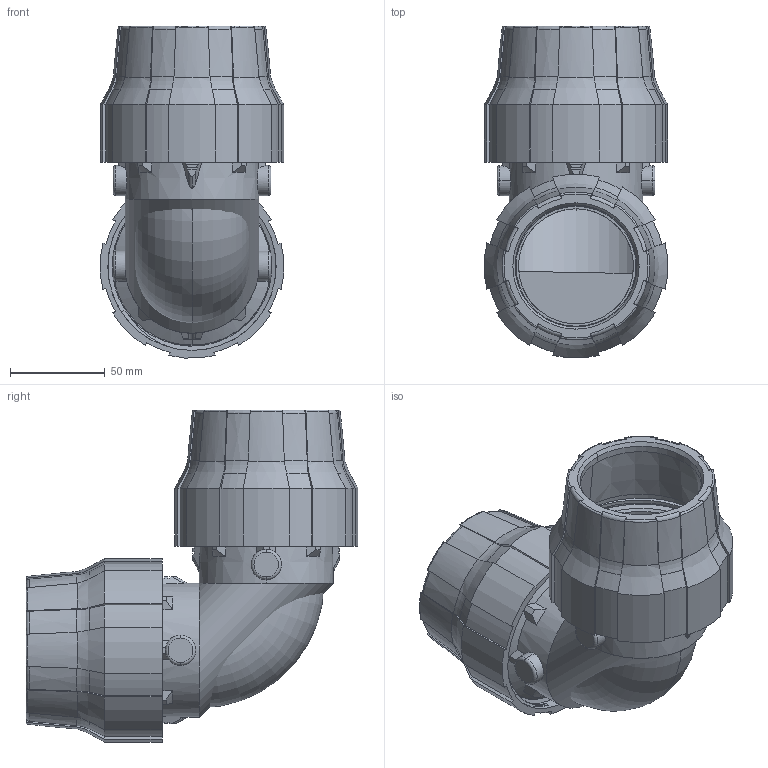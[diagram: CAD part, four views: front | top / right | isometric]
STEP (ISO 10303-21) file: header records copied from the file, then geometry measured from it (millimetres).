
FILE_DESCRIPTION (( 'STEP AP203' ), '1' );
FILE_NAME ('QLGO90AL063.STEP', '2014-05-14T13:29:51', ( '' ), ( '' ), 'SwSTEP 2.0', 'SolidWorks 2013', '' );
FILE_SCHEMA (( 'CONFIG_CONTROL_DESIGN' ));
Length unit declared in the file: millimetre
Products named in the file (3): CCORGO90063AL; CGHQUICK063AL; QLGO90AL063
Assembly tree (3 placements, depth 2):
  QLGO90AL063
    CCORGO90063AL
    CGHQUICK063AL  x2
Bounding box: 97.01 x 175.56 x 175.56 mm (x, y, z)
Volume: 342114.4 mm3; surface area: 176766.5 mm2
Topology: 3 solids, 3 shells, 619 faces, 1696 edges, 1092 vertices
Faces by surface type: plane 179, cylinder 161, bspline 158, cone 62, torus 59
Entity records: 22174 total; most frequent: CARTESIAN_POINT 11736, ORIENTED_EDGE 2508, DIRECTION 1612, EDGE_CURVE 1254, VERTEX_POINT 812, AXIS2_PLACEMENT_3D 616, B_SPLINE_CURVE_WITH_KNOTS 474, EDGE_LOOP 470
